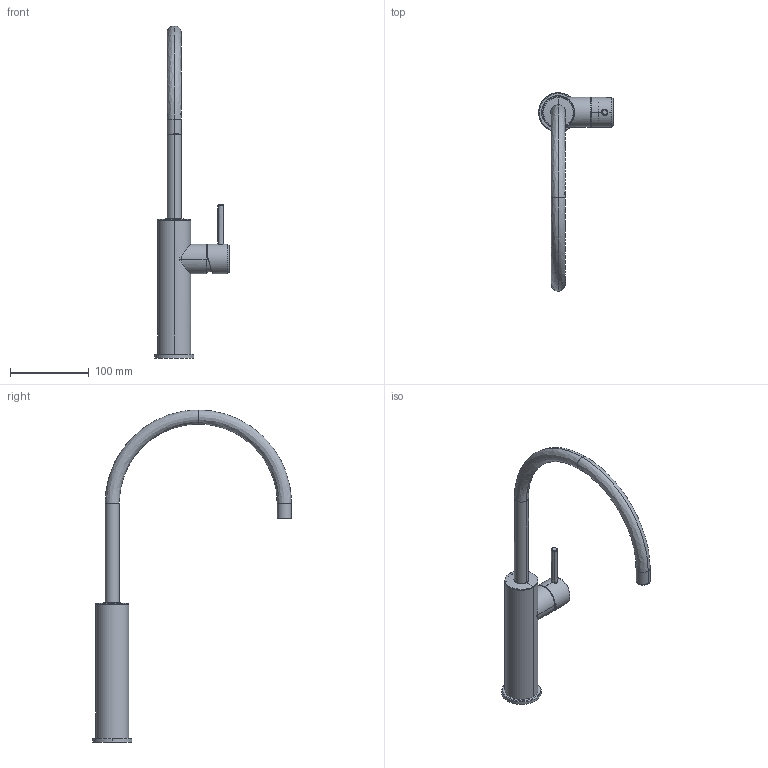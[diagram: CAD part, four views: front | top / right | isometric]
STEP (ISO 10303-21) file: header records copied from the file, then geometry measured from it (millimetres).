
FILE_DESCRIPTION(/* description */ (''),/* implementation_level */ '2;1');
FILE_NAME(/* name */ 'ST200ACC',/* time_stamp */ '2024-02-26T11:11:10+01:00',/* author */ (''),/* organization */ (''),/* preprocessor_version */ 'ST-DEVELOPER v16.5',/* originating_system */ 'Rhino 7.36',/* authorisation */ '');
FILE_SCHEMA (('CONFIG_CONTROL_DESIGN'));
Length unit declared in the file: millimetre
Products named in the file (1): Document
Bounding box: 95.3 x 252.97 x 422.7 mm (x, y, z)
Volume: 9741.4 mm3; surface area: 68648.9 mm2
Topology: 1 solids, 23 shells, 244 faces, 1573 edges, 1313 vertices
Faces by surface type: plane 121, bspline 93, cylinder 30
Entity records: 23045 total; most frequent: CARTESIAN_POINT 14941, ORIENTED_EDGE 2078, EDGE_CURVE 1573, B_SPLINE_CURVE_WITH_KNOTS 1401, VERTEX_POINT 1313, EDGE_LOOP 423, ADVANCED_FACE 244, FACE_OUTER_BOUND 244
